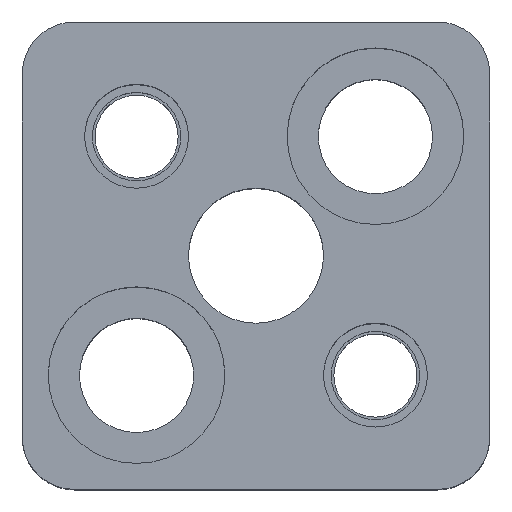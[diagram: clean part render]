
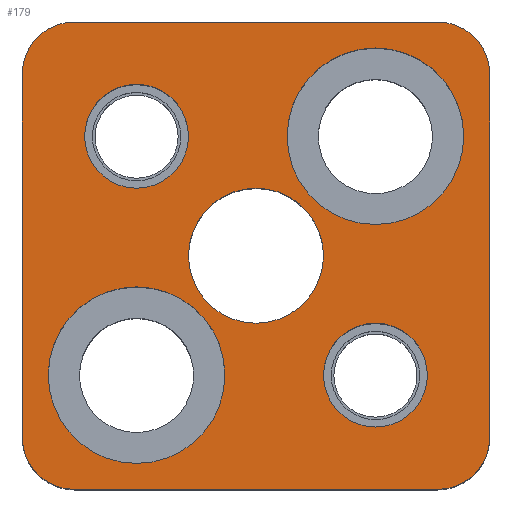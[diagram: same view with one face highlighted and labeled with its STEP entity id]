
A CAD part, top view. The second image highlights one B-rep face of the part: STEP entity #179.
In plain terms, the highlighted planar face has unit normal (0, 0, 1).
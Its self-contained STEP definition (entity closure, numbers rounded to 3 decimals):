
#111=FACE_BOUND('',#314,.T.);
#112=FACE_BOUND('',#315,.T.);
#113=FACE_BOUND('',#316,.T.);
#114=FACE_BOUND('',#317,.T.);
#115=FACE_BOUND('',#318,.T.);
#116=FACE_BOUND('',#319,.T.);
#140=PLANE('',#1098);
#179=ADVANCED_FACE('',(#111,#112,#113,#114,#115,#116),#140,.T.);
#314=EDGE_LOOP('',(#527,#528,#529,#530,#531,#532,#533,#534));
#315=EDGE_LOOP('',(#535,#536));
#316=EDGE_LOOP('',(#537,#538));
#317=EDGE_LOOP('',(#539,#540));
#318=EDGE_LOOP('',(#541,#542));
#319=EDGE_LOOP('',(#543,#544));
#377=CIRCLE('',#1062,5.);
#379=CIRCLE('',#1065,5.);
#381=CIRCLE('',#1069,5.);
#383=CIRCLE('',#1072,5.);
#393=CIRCLE('',#1088,5.);
#394=CIRCLE('',#1089,5.);
#395=CIRCLE('',#1090,5.);
#396=CIRCLE('',#1091,5.);
#397=CIRCLE('',#1092,8.5);
#398=CIRCLE('',#1093,8.5);
#399=CIRCLE('',#1094,8.5);
#400=CIRCLE('',#1095,8.5);
#401=CIRCLE('',#1096,6.5);
#402=CIRCLE('',#1097,6.5);
#527=ORIENTED_EDGE('',*,*,#838,.T.);
#528=ORIENTED_EDGE('',*,*,#839,.T.);
#529=ORIENTED_EDGE('',*,*,#840,.T.);
#530=ORIENTED_EDGE('',*,*,#841,.T.);
#531=ORIENTED_EDGE('',*,*,#842,.T.);
#532=ORIENTED_EDGE('',*,*,#843,.T.);
#533=ORIENTED_EDGE('',*,*,#844,.T.);
#534=ORIENTED_EDGE('',*,*,#845,.T.);
#535=ORIENTED_EDGE('',*,*,#846,.F.);
#536=ORIENTED_EDGE('',*,*,#847,.F.);
#537=ORIENTED_EDGE('',*,*,#848,.F.);
#538=ORIENTED_EDGE('',*,*,#849,.F.);
#539=ORIENTED_EDGE('',*,*,#824,.F.);
#540=ORIENTED_EDGE('',*,*,#820,.F.);
#541=ORIENTED_EDGE('',*,*,#818,.F.);
#542=ORIENTED_EDGE('',*,*,#814,.F.);
#543=ORIENTED_EDGE('',*,*,#850,.T.);
#544=ORIENTED_EDGE('',*,*,#851,.T.);
#715=VERTEX_POINT('',#1546);
#716=VERTEX_POINT('',#1547);
#719=VERTEX_POINT('',#1559);
#720=VERTEX_POINT('',#1560);
#731=VERTEX_POINT('',#1596);
#732=VERTEX_POINT('',#1597);
#733=VERTEX_POINT('',#1599);
#734=VERTEX_POINT('',#1601);
#735=VERTEX_POINT('',#1603);
#736=VERTEX_POINT('',#1605);
#737=VERTEX_POINT('',#1607);
#738=VERTEX_POINT('',#1609);
#739=VERTEX_POINT('',#1612);
#740=VERTEX_POINT('',#1613);
#741=VERTEX_POINT('',#1616);
#742=VERTEX_POINT('',#1617);
#743=VERTEX_POINT('',#1620);
#744=VERTEX_POINT('',#1621);
#814=EDGE_CURVE('',#715,#716,#377,.T.);
#818=EDGE_CURVE('',#716,#715,#379,.T.);
#820=EDGE_CURVE('',#719,#720,#381,.T.);
#824=EDGE_CURVE('',#720,#719,#383,.T.);
#838=EDGE_CURVE('',#731,#732,#393,.T.);
#839=EDGE_CURVE('',#732,#733,#931,.T.);
#840=EDGE_CURVE('',#733,#734,#394,.T.);
#841=EDGE_CURVE('',#734,#735,#932,.T.);
#842=EDGE_CURVE('',#735,#736,#395,.T.);
#843=EDGE_CURVE('',#736,#737,#933,.T.);
#844=EDGE_CURVE('',#737,#738,#396,.T.);
#845=EDGE_CURVE('',#738,#731,#934,.T.);
#846=EDGE_CURVE('',#739,#740,#397,.T.);
#847=EDGE_CURVE('',#740,#739,#398,.T.);
#848=EDGE_CURVE('',#741,#742,#399,.T.);
#849=EDGE_CURVE('',#742,#741,#400,.T.);
#850=EDGE_CURVE('',#743,#744,#401,.T.);
#851=EDGE_CURVE('',#744,#743,#402,.T.);
#931=LINE('',#1598,#992);
#932=LINE('',#1602,#993);
#933=LINE('',#1606,#994);
#934=LINE('',#1610,#995);
#992=VECTOR('',#1306,1.);
#993=VECTOR('',#1309,1.);
#994=VECTOR('',#1312,1.);
#995=VECTOR('',#1315,1.);
#1062=AXIS2_PLACEMENT_3D('',#1545,#1244,#1245);
#1065=AXIS2_PLACEMENT_3D('',#1554,#1252,#1253);
#1069=AXIS2_PLACEMENT_3D('',#1558,#1260,#1261);
#1072=AXIS2_PLACEMENT_3D('',#1567,#1268,#1269);
#1088=AXIS2_PLACEMENT_3D('',#1595,#1304,#1305);
#1089=AXIS2_PLACEMENT_3D('',#1600,#1307,#1308);
#1090=AXIS2_PLACEMENT_3D('',#1604,#1310,#1311);
#1091=AXIS2_PLACEMENT_3D('',#1608,#1313,#1314);
#1092=AXIS2_PLACEMENT_3D('',#1611,#1316,#1317);
#1093=AXIS2_PLACEMENT_3D('',#1614,#1318,#1319);
#1094=AXIS2_PLACEMENT_3D('',#1615,#1320,#1321);
#1095=AXIS2_PLACEMENT_3D('',#1618,#1322,#1323);
#1096=AXIS2_PLACEMENT_3D('',#1619,#1324,#1325);
#1097=AXIS2_PLACEMENT_3D('',#1622,#1326,#1327);
#1098=AXIS2_PLACEMENT_3D('',#1623,#1328,#1329);
#1244=DIRECTION('',(0.,0.,1.));
#1245=DIRECTION('',(-1.,0.,0.));
#1252=DIRECTION('',(0.,0.,1.));
#1253=DIRECTION('',(1.,0.,0.));
#1260=DIRECTION('',(0.,0.,1.));
#1261=DIRECTION('',(-1.,0.,0.));
#1268=DIRECTION('',(0.,0.,1.));
#1269=DIRECTION('',(1.,0.,0.));
#1304=DIRECTION('',(0.,0.,1.));
#1305=DIRECTION('',(-0.707,0.707,0.));
#1306=DIRECTION('',(0.,1.,0.));
#1307=DIRECTION('',(0.,0.,1.));
#1308=DIRECTION('',(-0.707,-0.707,0.));
#1309=DIRECTION('',(-1.,0.,0.));
#1310=DIRECTION('',(0.,0.,1.));
#1311=DIRECTION('',(0.707,-0.707,0.));
#1312=DIRECTION('',(0.,-1.,0.));
#1313=DIRECTION('',(0.,0.,1.));
#1314=DIRECTION('',(0.707,0.707,0.));
#1315=DIRECTION('',(1.,0.,0.));
#1316=DIRECTION('',(0.,0.,1.));
#1317=DIRECTION('',(1.,0.,0.));
#1318=DIRECTION('',(0.,0.,1.));
#1319=DIRECTION('',(-1.,0.,0.));
#1320=DIRECTION('',(0.,0.,1.));
#1321=DIRECTION('',(1.,0.,0.));
#1322=DIRECTION('',(0.,0.,1.));
#1323=DIRECTION('',(-1.,0.,0.));
#1324=DIRECTION('',(0.,0.,-1.));
#1325=DIRECTION('',(-1.,0.,0.));
#1326=DIRECTION('',(0.,0.,-1.));
#1327=DIRECTION('',(1.,0.,0.));
#1328=DIRECTION('',(0.,0.,1.));
#1329=DIRECTION('',(-1.,0.,0.));
#1545=CARTESIAN_POINT('',(11.5,-11.5,35.));
#1546=CARTESIAN_POINT('',(11.5,-16.5,35.));
#1547=CARTESIAN_POINT('',(11.5,-6.5,35.));
#1554=CARTESIAN_POINT('',(11.5,-11.5,35.));
#1558=CARTESIAN_POINT('',(-11.5,11.5,35.));
#1559=CARTESIAN_POINT('',(-11.5,6.5,35.));
#1560=CARTESIAN_POINT('',(-11.5,16.5,35.));
#1567=CARTESIAN_POINT('',(-11.5,11.5,35.));
#1595=CARTESIAN_POINT('',(17.5,-17.5,35.));
#1596=CARTESIAN_POINT('',(17.5,-22.5,35.));
#1597=CARTESIAN_POINT('',(22.5,-17.5,35.));
#1598=CARTESIAN_POINT('',(22.5,17.5,35.));
#1599=CARTESIAN_POINT('',(22.5,17.5,35.));
#1600=CARTESIAN_POINT('',(17.5,17.5,35.));
#1601=CARTESIAN_POINT('',(17.5,22.5,35.));
#1602=CARTESIAN_POINT('',(-17.5,22.5,35.));
#1603=CARTESIAN_POINT('',(-17.5,22.5,35.));
#1604=CARTESIAN_POINT('',(-17.5,17.5,35.));
#1605=CARTESIAN_POINT('',(-22.5,17.5,35.));
#1606=CARTESIAN_POINT('',(-22.5,17.5,35.));
#1607=CARTESIAN_POINT('',(-22.5,-17.5,35.));
#1608=CARTESIAN_POINT('',(-17.5,-17.5,35.));
#1609=CARTESIAN_POINT('',(-17.5,-22.5,35.));
#1610=CARTESIAN_POINT('',(-17.5,-22.5,35.));
#1611=CARTESIAN_POINT('',(11.5,11.5,35.));
#1612=CARTESIAN_POINT('',(11.5,20.,35.));
#1613=CARTESIAN_POINT('',(11.5,3.,35.));
#1614=CARTESIAN_POINT('',(11.5,11.5,35.));
#1615=CARTESIAN_POINT('',(-11.5,-11.5,35.));
#1616=CARTESIAN_POINT('',(-11.5,-3.,35.));
#1617=CARTESIAN_POINT('',(-11.5,-20.,35.));
#1618=CARTESIAN_POINT('',(-11.5,-11.5,35.));
#1619=CARTESIAN_POINT('',(0.,0.,35.));
#1620=CARTESIAN_POINT('',(0.,6.5,35.));
#1621=CARTESIAN_POINT('',(0.,-6.5,35.));
#1622=CARTESIAN_POINT('',(0.,0.,35.));
#1623=CARTESIAN_POINT('',(17.5,-22.5,35.));
